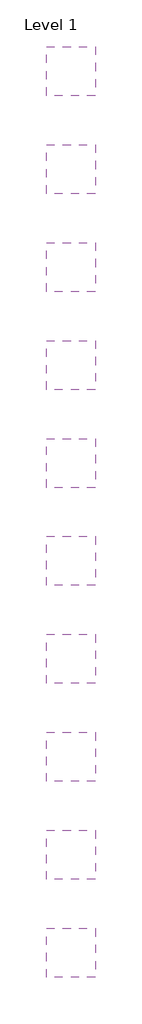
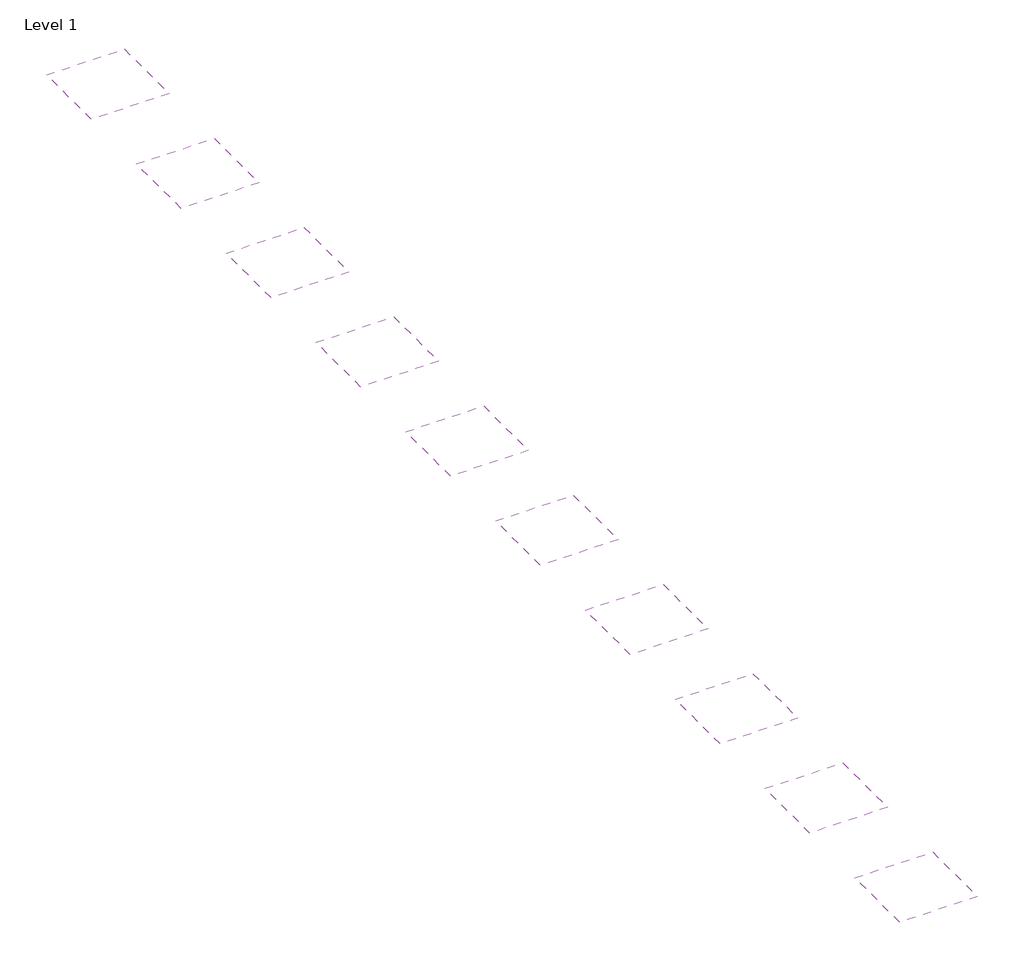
# One storey: 10 coverings.
"""IFC4 building model written with IfcOpenShell, lengths in millimetres."""

from ifc_helpers import new_model, si_unit, frame, origin, place, context, project, spatial, polyline, outline, extrude, element, save

model = new_model("IFC4")

# Units and contexts
model_context = context("Model", 3, world=origin())
ifc_project = project(units=[si_unit("LENGTHUNIT", "METRE", prefix="MILLI")], contexts=[model_context])

# Site, building, storey
site = spatial("IfcSite", under=ifc_project)
building = spatial("IfcBuilding", under=site)
storey = spatial("IfcBuildingStorey", under=building, Name="Level 1", Elevation=0.0)

# Coverings
placement = place(None, origin())
element("IfcCovering", 1, ObjectType="NBS_ArmstrongCeilingsLtd_UnitModularSuspendedCeilingSystem_TClipF_Plain-Prelude24Exposed_600x600x33mm_GB", at=placement, inside=storey, context=model_context, shape_type="SweptSolid", body=[
    extrude(outline(polyline([(2500.0, 47500.0), (2500.0, 45000.0), (0.0, 45000.0), (0.0, 47500.0), (2500.0, 47500.0)])), frame((0.0, 0.0, 2600.0), z_axis=(0.0, 0.0, 1.0), x_axis=(1.0, 0.0, 0.0)), (0.0, 0.0, 1.0), 83.0),
])
element("IfcCovering", 2, ObjectType="NBS_ArmstrongCeilingsLtd_UnitModularSuspendedCeilingSystem_TClipF_Rd1522-AcousticFleece-Prelude24Exposed_600x600x33mm_GB", at=placement, inside=storey, context=model_context, shape_type="SweptSolid", body=[
    extrude(outline(polyline([(2500.0, 42500.0), (2500.0, 40000.0), (0.0, 40000.0), (0.0, 42500.0), (2500.0, 42500.0)])), frame((0.0, 0.0, 2600.0), z_axis=(0.0, 0.0, 1.0), x_axis=(1.0, 0.0, 0.0)), (0.0, 0.0, 1.0), 83.0),
])
element("IfcCovering", 3, ObjectType="NBS_ArmstrongCeilingsLtd_UnitModularSuspendedCeilingSystem_TClipF_Rd1522-B15-Prelude24Exposed_600x600x33mm_GB", at=placement, inside=storey, context=model_context, shape_type="SweptSolid", body=[
    extrude(outline(polyline([(2500.0, 37500.0), (2500.0, 35000.0), (0.0, 35000.0), (0.0, 37500.0), (2500.0, 37500.0)])), frame((0.0, 0.0, 2600.0), z_axis=(0.0, 0.0, 1.0), x_axis=(1.0, 0.0, 0.0)), (0.0, 0.0, 1.0), 83.0),
])
element("IfcCovering", 4, ObjectType="NBS_ArmstrongCeilingsLtd_UnitModularSuspendedCeilingSystem_TClipF_Rd1522-OP19-Prelude24Exposed_600x600x33mm_GB", at=placement, inside=storey, context=model_context, shape_type="SweptSolid", body=[
    extrude(outline(polyline([(2500.0, 32500.0), (2500.0, 30000.0), (0.0, 30000.0), (0.0, 32500.0), (2500.0, 32500.0)])), frame((0.0, 0.0, 2600.0), z_axis=(0.0, 0.0, 1.0), x_axis=(1.0, 0.0, 0.0)), (0.0, 0.0, 1.0), 83.0),
])
element("IfcCovering", 5, ObjectType="NBS_ArmstrongCeilingsLtd_UnitModularSuspendedCeilingSystem_TClipF_Rg0701-AcousticFleece-Prelude24Exposed_600x600x33mm_GB", at=placement, inside=storey, context=model_context, shape_type="SweptSolid", body=[
    extrude(outline(polyline([(2500.0, 27500.0), (2500.0, 25000.0), (0.0, 25000.0), (0.0, 27500.0), (2500.0, 27500.0)])), frame((0.0, 0.0, 2600.0), z_axis=(0.0, 0.0, 1.0), x_axis=(1.0, 0.0, 0.0)), (0.0, 0.0, 1.0), 83.0),
])
element("IfcCovering", 6, ObjectType="NBS_ArmstrongCeilingsLtd_UnitModularSuspendedCeilingSystem_TClipF_Rg0701-B15-Prelude24Exposed_600x600x33mm_GB", at=placement, inside=storey, context=model_context, shape_type="SweptSolid", body=[
    extrude(outline(polyline([(2500.0, 22500.0), (2500.0, 20000.0), (0.0, 20000.0), (0.0, 22500.0), (2500.0, 22500.0)])), frame((0.0, 0.0, 2600.0), z_axis=(0.0, 0.0, 1.0), x_axis=(1.0, 0.0, 0.0)), (0.0, 0.0, 1.0), 83.0),
])
element("IfcCovering", 7, ObjectType="NBS_ArmstrongCeilingsLtd_UnitModularSuspendedCeilingSystem_TClipF_Rg0701-OP19-Prelude24Exposed_600x600x33mm_GB", at=placement, inside=storey, context=model_context, shape_type="SweptSolid", body=[
    extrude(outline(polyline([(2500.0, 17500.0), (2500.0, 15000.0), (0.0, 15000.0), (0.0, 17500.0), (2500.0, 17500.0)])), frame((0.0, 0.0, 2600.0), z_axis=(0.0, 0.0, 1.0), x_axis=(1.0, 0.0, 0.0)), (0.0, 0.0, 1.0), 83.0),
])
element("IfcCovering", 8, ObjectType="NBS_ArmstrongCeilingsLtd_UnitModularSuspendedCeilingSystem_TClipF_Rg2516-AcousticFleece-Prelude24Exposed_600x600x33mm_GB", at=placement, inside=storey, context=model_context, shape_type="SweptSolid", body=[
    extrude(outline(polyline([(2500.0, 12500.0), (2500.0, 10000.0), (0.0, 10000.0), (0.0, 12500.0), (2500.0, 12500.0)])), frame((0.0, 0.0, 2600.0), z_axis=(0.0, 0.0, 1.0), x_axis=(1.0, 0.0, 0.0)), (0.0, 0.0, 1.0), 83.0),
])
element("IfcCovering", 9, ObjectType="NBS_ArmstrongCeilingsLtd_UnitModularSuspendedCeilingSystem_TClipF_Rg2516-B15-Prelude24Exposed_600x600x33mm_GB", at=placement, inside=storey, context=model_context, shape_type="SweptSolid", body=[
    extrude(outline(polyline([(2500.0, 7500.0), (2500.0, 5000.0), (0.0, 5000.0), (0.0, 7500.0), (2500.0, 7500.0)])), frame((0.0, 0.0, 2600.0), z_axis=(0.0, 0.0, 1.0), x_axis=(1.0, 0.0, 0.0)), (0.0, 0.0, 1.0), 83.0),
])
element("IfcCovering", 10, ObjectType="NBS_ArmstrongCeilingsLtd_UnitModularSuspendedCeilingSystem_TClipF_Rg2516-OP19-Prelude24Exposed_600x600x33mm_GB", at=placement, inside=storey, context=model_context, shape_type="SweptSolid", body=[
    extrude(outline(polyline([(2500.0, 2500.0), (2500.0, 0.0), (0.0, 0.0), (0.0, 2500.0), (2500.0, 2500.0)])), frame((0.0, 0.0, 2600.0), z_axis=(0.0, 0.0, 1.0), x_axis=(1.0, 0.0, 0.0)), (0.0, 0.0, 1.0), 83.0),
])

save(model, "model.ifc")
